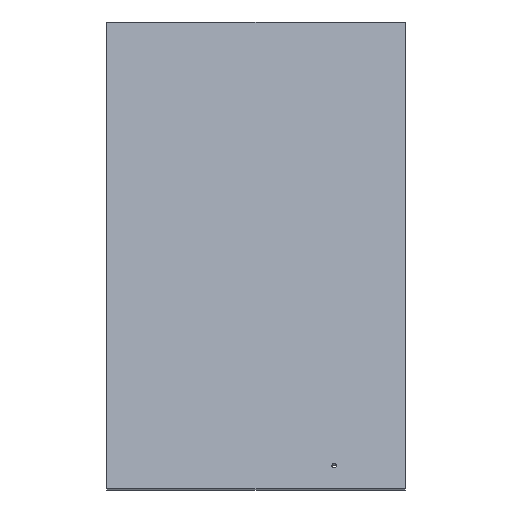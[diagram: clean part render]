
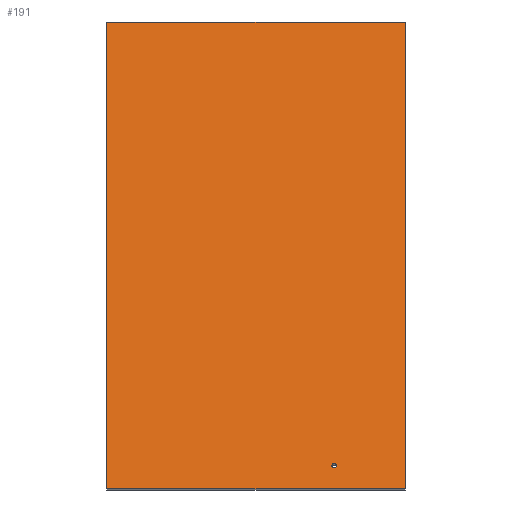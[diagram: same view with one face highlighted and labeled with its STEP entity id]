
A CAD part, front view. The second image highlights one B-rep face of the part: STEP entity #191.
In plain terms, the highlighted planar face has unit normal (0, -0.985, 0.174).
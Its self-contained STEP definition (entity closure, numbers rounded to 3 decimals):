
#37=CARTESIAN_POINT('',(1403.386,11.481,244.515));
#38=VERTEX_POINT('',#37);
#45=CARTESIAN_POINT('',(548.614,11.481,244.515));
#46=VERTEX_POINT('',#45);
#47=CARTESIAN_POINT('',(548.614,11.481,244.515));
#48=DIRECTION('',(1.0,0.0,0.0));
#49=VECTOR('',#48,1.);
#50=LINE('',#47,#49);
#51=EDGE_CURVE('',#46,#38,#50,.T.);
#75=CARTESIAN_POINT('',(1403.386,247.122,1580.899));
#76=VERTEX_POINT('',#75);
#83=CARTESIAN_POINT('',(1403.386,11.481,244.515));
#84=DIRECTION('',(0.,0.174,0.985));
#85=VECTOR('',#84,1.);
#86=LINE('',#83,#85);
#87=EDGE_CURVE('',#38,#76,#86,.T.);
#106=CARTESIAN_POINT('',(548.614,247.122,1580.899));
#107=VERTEX_POINT('',#106);
#114=CARTESIAN_POINT('',(1403.386,247.122,1580.899));
#115=DIRECTION('',(-1.0,0.,0.));
#116=VECTOR('',#115,1.);
#117=LINE('',#114,#116);
#118=EDGE_CURVE('',#76,#107,#117,.T.);
#136=CARTESIAN_POINT('',(548.614,247.122,1580.899));
#137=DIRECTION('',(0.,-0.174,-0.985));
#138=VECTOR('',#137,1.);
#139=LINE('',#136,#138);
#140=EDGE_CURVE('',#107,#46,#139,.T.);
#169=CARTESIAN_POINT('',(548.614,11.481,244.515));
#170=DIRECTION('',(0.0,-0.985,0.174));
#171=DIRECTION('',(1.0,0.0,0.0));
#172=AXIS2_PLACEMENT_3D('',#169,#170,#171);
#173=PLANE('',#172);
#174=ORIENTED_EDGE('',*,*,#51,.T.);
#175=ORIENTED_EDGE('',*,*,#87,.T.);
#176=ORIENTED_EDGE('',*,*,#118,.T.);
#177=ORIENTED_EDGE('',*,*,#140,.T.);
#178=EDGE_LOOP('',(#174,#175,#176,#177));
#179=FACE_OUTER_BOUND('',#178,.T.);
#180=CARTESIAN_POINT('',(1206.5,23.029,310.004));
#181=VERTEX_POINT('',#180);
#182=CARTESIAN_POINT('',(1200.0,23.029,310.004));
#183=DIRECTION('',(0.0,0.985,-0.174));
#184=DIRECTION('',(1.0,0.0,0.0));
#185=AXIS2_PLACEMENT_3D('',#182,#183,#184);
#186=CIRCLE('',#185,6.5);
#187=EDGE_CURVE('',#181,#181,#186,.T.);
#188=ORIENTED_EDGE('',*,*,#187,.T.);
#189=EDGE_LOOP('',(#188));
#190=FACE_BOUND('',#189,.T.);
#191=ADVANCED_FACE('',(#179,#190),#173,.T.);
